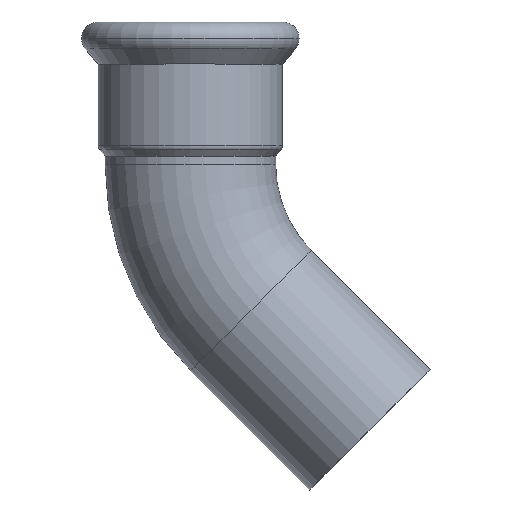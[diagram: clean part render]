
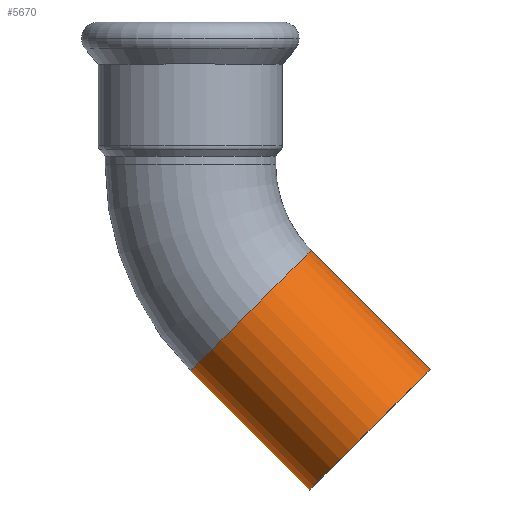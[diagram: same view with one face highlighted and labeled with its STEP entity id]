
A CAD part, top view. The second image highlights one B-rep face of the part: STEP entity #5670.
In plain terms, the highlighted cylindrical face has radius 21 mm (diameter 42 mm), a partial arc.
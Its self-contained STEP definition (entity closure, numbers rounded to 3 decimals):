
#1000=CARTESIAN_POINT('',(-5.889,129.766,0.));
#1010=DIRECTION('',(-0.707,0.707,0.));
#1020=DIRECTION('',(-0.707,-0.707,0.));
#1030=AXIS2_PLACEMENT_3D('',#1000,#1010,#1020);
#1040=CIRCLE('',#1030,21.);
#1050=CARTESIAN_POINT('',(-20.738,114.917,0.));
#1060=VERTEX_POINT('',#1050);
#1070=CARTESIAN_POINT('',(8.961,144.615,
0.));
#1080=VERTEX_POINT('',#1070);
#1090=EDGE_CURVE('',#1060,#1080,#1040,.T.);
#4330=CARTESIAN_POINT('',(-50.065,144.244,
0.));
#4340=VERTEX_POINT('',#4330);
#4490=CARTESIAN_POINT('',(-20.367,173.942,
0.));
#4500=VERTEX_POINT('',#4490);
#4530=CARTESIAN_POINT('',(-35.216,159.093,0.));
#4540=DIRECTION('',(0.707,-0.707,0.));
#4550=DIRECTION('',(-0.707,-0.707,0.));
#4560=AXIS2_PLACEMENT_3D('',#4530,#4540,#4550);
#4570=CIRCLE('',#4560,21.);
#4580=EDGE_CURVE('',#4500,#4340,#4570,.T.);
#4630=CARTESIAN_POINT('',(-35.216,159.093,0.));
#4640=DIRECTION('',(-0.707,0.707,0.));
#4650=DIRECTION('',(-0.707,-0.707,0.));
#4660=AXIS2_PLACEMENT_3D('',#4630,#4640,#4650);
#4670=CYLINDRICAL_SURFACE('',#4660,21.);
#4680=CARTESIAN_POINT('',(-20.367,173.942,
0.));
#4690=DIRECTION('',(-0.707,0.707,0.));
#4700=VECTOR('',#4690,1.);
#4710=LINE('',#4680,#4700);
#4720=EDGE_CURVE('',#1080,#4500,#4710,.T.);
#4760=CARTESIAN_POINT('',(-50.065,144.244,0.));
#4770=DIRECTION('',(-0.707,0.707,0.));
#4780=VECTOR('',#4770,1.);
#4790=LINE('',#4760,#4780);
#4800=EDGE_CURVE('',#1060,#4340,#4790,.T.);
#5610=ORIENTED_EDGE('',*,*,#4720,.T.);
#5620=ORIENTED_EDGE('',*,*,#1090,.T.);
#5630=ORIENTED_EDGE('',*,*,#4800,.F.);
#5640=ORIENTED_EDGE('',*,*,#4580,.T.);
#5650=EDGE_LOOP('',(#5640,#5630,#5620,#5610));
#5660=FACE_OUTER_BOUND('',#5650,.T.);
#5670=ADVANCED_FACE('',(#5660),#4670,.T.);
